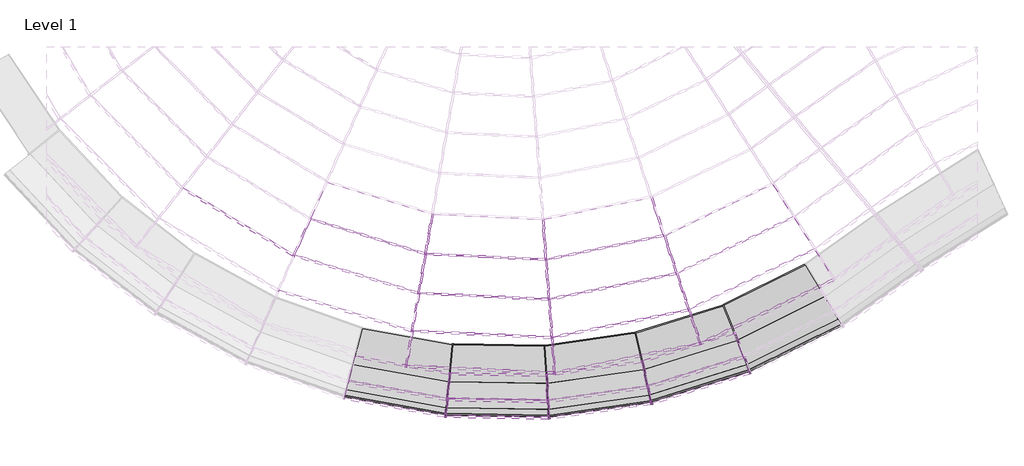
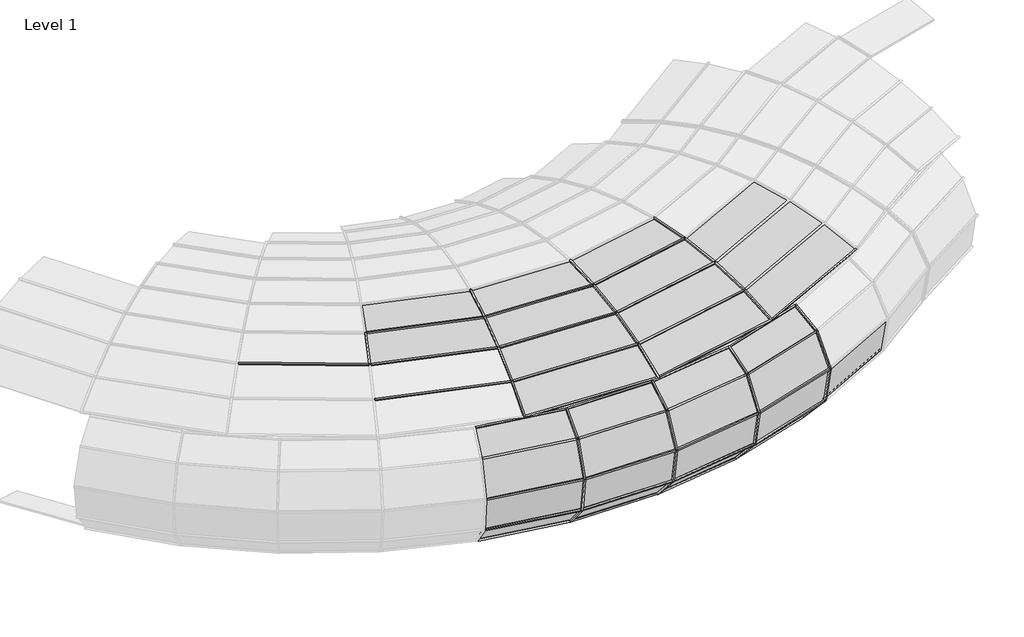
# One storey, part 3 of 23: 70 members, 36 plates.
"""IFC4 building model written with IfcOpenShell, lengths in millimetres."""

from ifc_helpers import new_model, si_unit, origin, place, context, project, spatial, transform, mapped, element, save
from components import member_6c4aaba8, member_0ea93e7c, member_12c77cbe, member_af15374c, member_9c203333, member_86c07ba8, member_0e8a41c0, member_f532ae18, member_ff5bcfe9, member_5080b2ef, member_d6b8231b, member_8c9da58c, member_391bee44, member_01ebdf2a, member_0cd36c09, member_e4cc2466, system_panel_glazed_dfe8d515, system_panel_glazed_f0cf6c0b, system_panel_glazed_2b57bb89, system_panel_glazed_39caee5c, system_panel_glazed_2fe36e08, system_panel_glazed_8ac96967, system_panel_glazed_5e26bc8e, system_panel_glazed_f7be4813, system_panel_glazed_5b1ce257

model = new_model("IFC4")

# Units and contexts
model_context = context("Model", 3, world=origin())
ifc_project = project(units=[si_unit("LENGTHUNIT", "METRE", prefix="MILLI")], contexts=[model_context])

# Site, building, storey
site = spatial("IfcSite", under=ifc_project)
building = spatial("IfcBuilding", under=site)
storey = spatial("IfcBuildingStorey", under=building, Name="Level 1", Elevation=0.0)

# Members
placement = place(None, origin())
member_shape = member_6c4aaba8(model_context)
element("IfcMember", 1, ObjectType="Rectangular Mullion : 1\" Square", at=placement, inside=storey, context=model_context, shape_type="MappedRepresentation", body=[
    mapped(member_shape, transform((-11347.2501894, -9575.5655717, 2378.3537392), x_axis=(0.2631320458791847, 0.8664968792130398, 0.4241988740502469), y_axis=(-0.12325986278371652, -0.40589615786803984, 0.9055690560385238), z_axis=(0.9568534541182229, -0.2905709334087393, 0.0))),
])
element("IfcMember", 2, ObjectType="Rectangular Mullion : 1\" Square", at=placement, inside=storey, context=model_context, shape_type="MappedRepresentation", body=[
    mapped(member_shape, transform((-9287.1597581, -9676.1511037, 2378.3537392), x_axis=(0.04279783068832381, 0.9045571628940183, 0.4241988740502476), y_axis=(-0.020047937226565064, -0.4237248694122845, 0.9055690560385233), z_axis=(0.9988825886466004, -0.047260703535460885, 0.0))),
])
element("IfcMember", 3, ObjectType="Rectangular Mullion : 1\" Square", at=placement, inside=storey, context=model_context, shape_type="MappedRepresentation", body=[
    mapped(member_shape, transform((-7265.2214514, -9268.8974749, 2378.3537392), x_axis=(-0.18014561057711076, 0.8874699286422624, 0.4241988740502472), y_axis=(0.08438623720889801, -0.41572063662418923, 0.9055690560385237), z_axis=(0.9800135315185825, 0.19893083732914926, 0.0))),
])
member_2_shape = member_0ea93e7c(model_context)
element("IfcMember", 4, ObjectType="Rectangular Mullion : 1\" Square", at=placement, inside=storey, context=model_context, shape_type="MappedRepresentation", body=[
    mapped(member_2_shape, transform((-9375.3878964, -8525.0060754, 2763.3769688), x_axis=(0.04631124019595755, 0.9788151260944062, 0.19943976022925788), y_axis=(-0.009425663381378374, -0.19921690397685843, 0.9799100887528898), z_axis=(0.9988825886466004, -0.04726070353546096, 0.0))),
])
element("IfcMember", 5, ObjectType="Rectangular Mullion : 1\" Square", at=placement, inside=storey, context=model_context, shape_type="MappedRepresentation", body=[
    mapped(member_2_shape, transform((-7632.8190581, -8174.4610537, 2763.3769688), x_axis=(-0.1949343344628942, 0.9603251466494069, 0.19943976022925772), y_axis=(0.03967471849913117, -0.19545366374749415, 0.9799100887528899), z_axis=(0.9800135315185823, 0.19893083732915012, 0.0))),
])
element("IfcMember", 6, ObjectType="Rectangular Mullion : 1\" Square", at=placement, inside=storey, context=model_context, shape_type="MappedRepresentation", body=[
    mapped(member_2_shape, transform((-11150.7299146, -8437.893008, 2763.3769688), x_axis=(0.28473338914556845, 0.9376303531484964, 0.19943976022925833), y_axis=(-0.05795139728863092, -0.190834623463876, 0.9799100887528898), z_axis=(0.9568534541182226, -0.2905709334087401, 0.0))),
])
member_3_shape = member_12c77cbe(model_context)
element("IfcMember", 7, ObjectType="Rectangular Mullion : 1\" Square", at=placement, inside=storey, context=model_context, shape_type="MappedRepresentation", body=[
    mapped(member_3_shape, transform((-13089.9278612, -8456.3612931, 2605.3528615), x_axis=(0.49006573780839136, 0.8131794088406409, 0.31396627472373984), y_axis=(-0.16205875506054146, -0.2689085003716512, 0.9494341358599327), z_axis=(0.8564884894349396, -0.5161661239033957, 0.0))),
])
element("IfcMember", 8, ObjectType="Rectangular Mullion : 1\" Square", at=placement, inside=storey, context=model_context, shape_type="MappedRepresentation", body=[
    mapped(member_3_shape, transform((-11250.9477798, -9018.0627427, 2605.3528615), x_axis=(0.275877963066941, 0.9084693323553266, 0.31396627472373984), y_axis=(-0.09122947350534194, -0.30041971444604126, 0.9494341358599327), z_axis=(0.9568534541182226, -0.2905709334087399, 0.0))),
])
element("IfcMember", 9, ObjectType="Rectangular Mullion : 1\" Square", at=placement, inside=storey, context=model_context, shape_type="MappedRepresentation", body=[
    mapped(member_3_shape, transform((-9330.3949017, -9112.0462545, 2605.3528615), x_axis=(0.04487092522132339, 0.9483732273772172, 0.3139662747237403), y_axis=(-0.014838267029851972, -0.31361544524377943, 0.9494341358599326), z_axis=(0.9988825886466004, -0.047260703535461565, 0.0))),
])
element("IfcMember", 10, ObjectType="Rectangular Mullion : 1\" Square", at=placement, inside=storey, context=model_context, shape_type="MappedRepresentation", body=[
    mapped(member_3_shape, transform((-7445.3582608, -8732.5820002, 2605.3528615), x_axis=(-0.1888717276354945, 0.930458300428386, 0.31396627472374), y_axis=(0.0624575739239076, -0.30769119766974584, 0.9494341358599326), z_axis=(0.9800135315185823, 0.19893083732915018, 0.0))),
])
member_4_shape = member_af15374c(model_context)
element("IfcMember", 11, ObjectType="Rectangular Mullion : 1\" Square", at=placement, inside=storey, context=model_context, shape_type="MappedRepresentation", body=[
    mapped(member_4_shape, transform((-11413.4292669, -10106.7607454, 2085.6089632), x_axis=(-0.041380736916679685, -0.8746060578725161, -0.4830650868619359), y_axis=(-0.022829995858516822, -0.48252530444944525, 0.8755844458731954), z_axis=(-0.9988825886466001, 0.047260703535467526, 0.0))),
])
element("IfcMember", 12, ObjectType="Rectangular Mullion : 1\" Square", at=placement, inside=storey, context=model_context, shape_type="MappedRepresentation", body=[
    mapped(member_4_shape, transform((-9221.1655616, -10207.3692781, 2085.6089632), x_axis=(0.1741807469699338, -0.858084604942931, -0.4830650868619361), y_axis=(0.09609654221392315, -0.47341032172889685, 0.8755844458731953), z_axis=(-0.9800135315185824, -0.19893083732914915, 0.0))),
])
element("IfcMember", 13, ObjectType="Rectangular Mullion : 1\" Square", at=placement, inside=storey, context=model_context, shape_type="MappedRepresentation", body=[
    mapped(member_4_shape, transform((-7071.0774039, -9767.752235, 2085.6089632), x_axis=(0.37912307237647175, -0.7892488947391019, -0.48306508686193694), y_axis=(0.20916442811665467, -0.43543325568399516, 0.8755844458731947), z_axis=(-0.901396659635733, -0.4329942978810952, 0.0))),
])
member_5_shape = member_9c203333(model_context)
element("IfcMember", 14, ObjectType="Rectangular Mullion : 1\" Square", at=placement, inside=storey, context=model_context, shape_type="MappedRepresentation", body=[
    mapped(member_5_shape, transform((-10725.5107745, -9764.3869193, 0.0), x_axis=(0.01691116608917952, 0.9595212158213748, -0.28112817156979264), y_axis=(-0.004953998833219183, -0.2810845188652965, -0.959670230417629), z_axis=(-0.999844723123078, 0.017621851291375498, 0.0))),
])
element("IfcMember", 15, ObjectType="Rectangular Mullion : 1\" Square", at=placement, inside=storey, context=model_context, shape_type="MappedRepresentation", body=[
    mapped(member_5_shape, transform((-9372.2624856, -9786.2111545, 0.0), x_axis=(-0.1363674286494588, 0.949932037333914, -0.28112817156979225), y_axis=(0.03994781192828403, -0.278275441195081, -0.9596702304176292), z_axis=(-0.9898525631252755, -0.14209821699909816, 0.0))),
])
element("IfcMember", 16, ObjectType="Rectangular Mullion : 1\" Square", at=placement, inside=storey, context=model_context, shape_type="MappedRepresentation", body=[
    mapped(member_5_shape, transform((-8032.8613891, -9591.8868597, 0.0), x_axis=(-0.2861536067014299, 0.9160147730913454, -0.2811281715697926), y_axis=(0.08382654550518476, -0.26833963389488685, -0.9596702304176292), z_axis=(-0.9545099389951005, -0.2981791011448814, 0.0))),
])
element("IfcMember", 17, ObjectType="Rectangular Mullion : 1\" Square", at=placement, inside=storey, context=model_context, shape_type="MappedRepresentation", body=[
    mapped(member_5_shape, transform((-6741.6100073, -9186.3907467, 0.0), x_axis=(-0.4286112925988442, 0.8586380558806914, -0.2811281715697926), y_axis=(0.12555845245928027, -0.2515315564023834, -0.9596702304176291), z_axis=(-0.8947219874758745, -0.4466235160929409, 0.0))),
])
member_6_shape = member_86c07ba8(model_context)
element("IfcMember", 18, ObjectType="Rectangular Mullion : 1\" Square", at=placement, inside=storey, context=model_context, shape_type="MappedRepresentation", body=[
    mapped(member_6_shape, transform((-9360.9950044, -10371.8132882, 170.8694653), x_axis=(-0.014873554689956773, -0.8439093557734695, 0.5362795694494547), y_axis=(-0.009450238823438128, -0.5361962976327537, -0.8440404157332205), z_axis=(0.9998447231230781, -0.017621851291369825, 0.0))),
])
element("IfcMember", 19, ObjectType="Rectangular Mullion : 1\" Square", at=placement, inside=storey, context=model_context, shape_type="MappedRepresentation", body=[
    mapped(member_6_shape, transform((-7928.3234137, -10168.1928781, 170.8694653), x_axis=(0.1199366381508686, -0.8354755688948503, 0.5362795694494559), y_axis=(0.07620437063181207, -0.530837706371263, -0.8440404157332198), z_axis=(0.9898525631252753, 0.1420982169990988, 0.0))),
])
element("IfcMember", 20, ObjectType="Rectangular Mullion : 1\" Square", at=placement, inside=storey, context=model_context, shape_type="MappedRepresentation", body=[
    mapped(member_6_shape, transform((-6546.478791, -9738.6412547, 170.8694653), x_axis=(0.25167521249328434, -0.8056449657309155, 0.5362795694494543), y_axis=(0.1599073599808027, -0.5118841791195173, -0.8440404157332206), z_axis=(0.9545099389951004, 0.29817910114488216, 0.0))),
])
element("IfcMember", 21, ObjectType="Rectangular Mullion : 1\" Square", at=placement, inside=storey, context=model_context, shape_type="MappedRepresentation", body=[
    mapped(member_6_shape, transform((-10807.8023517, -10344.2876965, 170.8694653), x_axis=(-0.14930283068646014, -0.8307303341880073, 0.5362795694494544), y_axis=(-0.09486282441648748, -0.5278227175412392, -0.8440404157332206), z_axis=(0.9842305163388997, -0.17689061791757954, 0.0))),
])
member_7_shape = member_0e8a41c0(model_context)
element("IfcMember", 22, ObjectType="Rectangular Mullion : 1\" Square", at=placement, inside=storey, context=model_context, shape_type="MappedRepresentation", body=[
    mapped(member_7_shape, transform((-10846.9534604, -10743.6386773, 629.7792003), x_axis=(-0.07469705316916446, -0.4156190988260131, 0.9064662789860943), y_axis=(-0.16034538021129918, -0.8921717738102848, -0.42227820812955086), z_axis=(0.9842305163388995, -0.1768906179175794, 0.0))),
])
element("IfcMember", 23, ObjectType="Rectangular Mullion : 1\" Square", at=placement, inside=storey, context=model_context, shape_type="MappedRepresentation", body=[
    mapped(member_7_shape, transform((-9335.9406326, -10772.2958641, 629.7792003), x_axis=(-0.007441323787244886, -0.4222126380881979, 0.9064662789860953), y_axis=(-0.015973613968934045, -0.9063255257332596, -0.4222782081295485), z_axis=(0.9998447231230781, -0.017621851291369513, 0.0))),
])
element("IfcMember", 24, ObjectType="Rectangular Mullion : 1\" Square", at=placement, inside=storey, context=model_context, shape_type="MappedRepresentation", body=[
    mapped(member_7_shape, transform((-7839.7052124, -10559.5505528, 629.7792003), x_axis=(0.060004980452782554, -0.41799316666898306, 0.9064662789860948), y_axis=(0.12880724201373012, -0.8972679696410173, -0.4222782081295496), z_axis=(0.9898525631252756, 0.142098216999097, 0.0))),
])
element("IfcMember", 25, ObjectType="Rectangular Mullion : 1\" Square", at=placement, inside=storey, context=model_context, shape_type="MappedRepresentation", body=[
    mapped(member_7_shape, transform((-6396.5663029, -10110.8512237, 629.7792003), x_axis=(0.12591453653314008, -0.40306874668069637, 0.9064662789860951), y_axis=(0.270289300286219, -0.8652310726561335, -0.4222782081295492), z_axis=(0.9545099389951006, 0.2981791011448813, 0.0))),
])
member_8_shape = member_f532ae18(model_context)
element("IfcMember", 26, ObjectType="Rectangular Mullion : 1\" Square", at=placement, inside=storey, context=model_context, shape_type="MappedRepresentation", body=[
    mapped(member_8_shape, transform((-10855.8579485, -10834.4666563, 1232.5089476), x_axis=(0.02369634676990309, 0.13184796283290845, 0.9909866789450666), y_axis=(-0.17529624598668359, -0.9753593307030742, 0.13396044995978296), z_axis=(0.9842305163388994, -0.17689061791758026, 0.0))),
])
element("IfcMember", 27, ObjectType="Rectangular Mullion : 1\" Square", at=placement, inside=storey, context=model_context, shape_type="MappedRepresentation", body=[
    mapped(member_8_shape, transform((-9330.2422919, -10863.3812119, 1232.5089476), x_axis=(0.002360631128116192, 0.13393964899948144, 0.9909866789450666), y_axis=(-0.017463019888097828, -0.9908328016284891, 0.13396044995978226), z_axis=(0.9998447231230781, -0.017621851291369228, 0.0))),
])
element("IfcMember", 28, ObjectType="Rectangular Mullion : 1\" Square", at=placement, inside=storey, context=model_context, shape_type="MappedRepresentation", body=[
    mapped(member_8_shape, transform((-7819.5499793, -10648.5605424, 1232.5089476), x_axis=(-0.019035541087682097, 0.1326010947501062, 0.9909866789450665), y_axis=(0.1408174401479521, -0.9809307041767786, 0.13396044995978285), z_axis=(0.9898525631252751, 0.14209821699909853, 0.0))),
])
element("IfcMember", 29, ObjectType="Rectangular Mullion : 1\" Square", at=placement, inside=storey, context=model_context, shape_type="MappedRepresentation", body=[
    mapped(member_8_shape, transform((-6362.4703598, -10195.5062787, 1232.5089476), x_axis=(-0.0399442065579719, 0.12786658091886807, 0.9909866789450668), y_axis=(0.29549151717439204, -0.9459066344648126, 0.13396044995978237), z_axis=(0.9545099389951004, 0.29817910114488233, 0.0))),
])
member_9_shape = member_ff5bcfe9(model_context)
element("IfcMember", 30, ObjectType="Rectangular Mullion : 1\" Square", at=placement, inside=storey, context=model_context, shape_type="MappedRepresentation", body=[
    mapped(member_9_shape, transform((-10831.717428, -10588.2273827, 1789.6405438), x_axis=(0.1145188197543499, 0.6371899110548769, 0.7621512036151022), y_axis=(-0.13481739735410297, -0.7501324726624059, 0.6473990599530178), z_axis=(0.9842305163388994, -0.17689061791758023, 0.0))),
])
element("IfcMember", 31, ObjectType="Rectangular Mullion : 1\" Square", at=placement, inside=storey, context=model_context, shape_type="MappedRepresentation", body=[
    mapped(member_9_shape, transform((-9345.6907836, -10616.4441984, 1789.6405438), x_axis=(0.011408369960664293, 0.6472985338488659, 0.7621512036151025), y_axis=(-0.01343051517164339, -0.7620328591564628, 0.6473990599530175), z_axis=(0.999844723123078, -0.017621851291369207, 0.0))),
])
element("IfcMember", 32, ObjectType="Rectangular Mullion : 1\" Square", at=placement, inside=storey, context=model_context, shape_type="MappedRepresentation", body=[
    mapped(member_9_shape, transform((-7874.1918421, -10407.2499305, 1789.6405438), x_axis=(-0.09199425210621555, 0.6408296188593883, 0.7621512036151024), y_axis=(0.10830032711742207, -0.7544173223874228, 0.6473990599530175), z_axis=(0.9898525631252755, 0.1420982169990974, 0.0))),
])
element("IfcMember", 33, ObjectType="Rectangular Mullion : 1\" Square", at=placement, inside=storey, context=model_context, shape_type="MappedRepresentation", body=[
    mapped(member_9_shape, transform((-6454.9061968, -9966.0021162, 1789.6405438), x_axis=(-0.19304086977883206, 0.6179488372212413, 0.7621512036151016), y_axis=(0.22725756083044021, -0.7274808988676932, 0.6473990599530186), z_axis=(0.9545099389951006, 0.298179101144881, 0.0))),
])
member_10_shape = member_5080b2ef(model_context)
element("IfcMember", 34, ObjectType="Rectangular Mullion : 1\" Square", at=placement, inside=storey, context=model_context, shape_type="MappedRepresentation", body=[
    mapped(member_10_shape, transform((-10792.7970856, -10191.230275, 2085.6089632), x_axis=(0.1418965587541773, 0.7895213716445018, 0.5970941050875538), y_axis=(-0.10562034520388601, -0.5876782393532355, 0.8021711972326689), z_axis=(0.9842305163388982, -0.17689061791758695, 0.0))),
])
element("IfcMember", 35, ObjectType="Rectangular Mullion : 1\" Square", at=placement, inside=storey, context=model_context, shape_type="MappedRepresentation", body=[
    mapped(member_10_shape, transform((-9370.5974787, -10218.3221654, 2085.6089632), x_axis=(0.01413574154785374, 0.802046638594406, 0.5970941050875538), y_axis=(-0.010521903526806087, -0.5970013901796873, 0.8021711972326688), z_axis=(0.9998447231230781, -0.01762185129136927, 0.0))),
])
element("IfcMember", 36, ObjectType="Rectangular Mullion : 1\" Square", at=placement, inside=storey, context=model_context, shape_type="MappedRepresentation", body=[
    mapped(member_10_shape, transform((-7962.2877058, -10018.1990143, 2085.6089632), x_axis=(-0.11398709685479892, 0.7940312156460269, 0.5970941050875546), y_axis=(0.08484600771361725, -0.5910351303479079, 0.8021711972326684), z_axis=(0.9898525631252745, 0.1420982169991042, 0.0))),
])
element("IfcMember", 37, ObjectType="Rectangular Mullion : 1\" Square", at=placement, inside=storey, context=model_context, shape_type="MappedRepresentation", body=[
    mapped(member_10_shape, transform((-6603.9350638, -9595.9860444, 2085.6089632), x_axis=(-0.23919068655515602, 0.7656803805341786, 0.5970941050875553), y_axis=(0.1780409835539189, -0.5699322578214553, 0.8021711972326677), z_axis=(0.9545099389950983, 0.2981791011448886, 0.0))),
])
member_11_shape = member_d6b8231b(model_context)
element("IfcMember", 38, ObjectType="Rectangular Mullion : 1\" Square", at=placement, inside=storey, context=model_context, shape_type="MappedRepresentation", body=[
    mapped(member_11_shape, transform((-8044.9836654, -9595.6737343, 0.0), x_axis=(0.9753085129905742, 0.2208467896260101, 0.0), y_axis=(0.06190284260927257, -0.2733767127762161, -0.9599131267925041), z_axis=(-0.2119937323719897, 0.9362114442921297, -0.2802976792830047))),
])
element("IfcMember", 39, ObjectType="Rectangular Mullion : 1\" Square", at=placement, inside=storey, context=model_context, shape_type="MappedRepresentation", body=[
    mapped(member_11_shape, transform((-6752.9729766, -9192.0628654, 0.0), x_axis=(0.927590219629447, 0.3735992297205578, 0.0), y_axis=(0.10471899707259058, -0.2600013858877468, -0.959913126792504), z_axis=(-0.35862280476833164, 0.8904060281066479, -0.2802976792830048))),
])
element("IfcMember", 40, ObjectType="Rectangular Mullion : 1\" Square", at=placement, inside=storey, context=model_context, shape_type="MappedRepresentation", body=[
    mapped(member_11_shape, transform((-9384.8336131, -9788.0158019, 0.0), x_axis=(0.998048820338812, 0.0624383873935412, 0.0), y_axis=(0.017501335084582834, -0.27975076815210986, -0.9599131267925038), z_axis=(-0.059935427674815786, 0.958040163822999, -0.2802976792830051))),
])
element("IfcMember", 41, ObjectType="Rectangular Mullion : 1\" Square", at=placement, inside=storey, context=model_context, shape_type="MappedRepresentation", body=[
    mapped(member_11_shape, transform((-10738.2088025, -9764.1631218, 0.0), x_axis=(0.9952287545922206, -0.09756908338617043, 0.0), y_axis=(-0.0273483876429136, -0.27896031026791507, -0.959913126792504), z_axis=(0.09365784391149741, 0.9553331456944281, -0.2802976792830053))),
])
member_12_shape = member_8c9da58c(model_context)
element("IfcMember", 42, ObjectType="Rectangular Mullion : 1\" Square", at=placement, inside=storey, context=model_context, shape_type="MappedRepresentation", body=[
    mapped(member_12_shape, transform((-10795.3026241, -10346.5342074, 170.8694653), x_axis=(0.9952287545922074, -0.09756908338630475, 0.0), y_axis=(-0.07345046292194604, -0.7492128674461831, -0.6582439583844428), z_axis=(0.0642242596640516, 0.6551033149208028, -0.7528046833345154))),
])
element("IfcMember", 43, ObjectType="Rectangular Mullion : 1\" Square", at=placement, inside=storey, context=model_context, shape_type="MappedRepresentation", body=[
    mapped(member_12_shape, transform((-9348.2969764, -10372.0370857, 170.8694653), x_axis=(0.9980488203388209, 0.062438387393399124, 0.0), y_axis=(0.04700391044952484, -0.7513358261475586, -0.6582439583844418), z_axis=(-0.04109969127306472, 0.6569596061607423, -0.7528046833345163))),
])
element("IfcMember", 44, ObjectType="Rectangular Mullion : 1\" Square", at=placement, inside=storey, context=model_context, shape_type="MappedRepresentation", body=[
    mapped(member_12_shape, transform((-9323.2426046, -10772.5196617, 629.7792003), x_axis=(0.9980488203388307, 0.06243838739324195, 0.0), y_axis=(0.061734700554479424, -0.9868007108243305, -0.14971033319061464), z_axis=(-0.009347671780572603, 0.14941822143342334, -0.988729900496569))),
])
element("IfcMember", 45, ObjectType="Rectangular Mullion : 1\" Square", at=placement, inside=storey, context=model_context, shape_type="MappedRepresentation", body=[
    mapped(member_12_shape, transform((-7915.7522861, -10166.3882307, 170.8694653), x_axis=(0.9753085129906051, 0.22084678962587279, 0.0), y_axis=(0.1662544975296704, -0.734216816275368, -0.6582439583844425), z_axis=(-0.14537106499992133, 0.6419909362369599, -0.7528046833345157))),
])
element("IfcMember", 46, ObjectType="Rectangular Mullion : 1\" Square", at=placement, inside=storey, context=model_context, shape_type="MappedRepresentation", body=[
    mapped(member_12_shape, transform((-7827.1340849, -10557.7459054, 629.7792003), x_axis=(0.9753085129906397, 0.22084678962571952, 0.0), y_axis=(0.2183578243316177, -0.9643166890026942, -0.1497103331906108), z_axis=(-0.03306304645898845, 0.14601376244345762, -0.9887299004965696))),
])
element("IfcMember", 47, ObjectType="Rectangular Mullion : 1\" Square", at=placement, inside=storey, context=model_context, shape_type="MappedRepresentation", body=[
    mapped(member_12_shape, transform((-6534.3565148, -9734.8543801, 170.8694653), x_axis=(0.9275902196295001, 0.3735992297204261, 0.0), y_axis=(0.2812472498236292, -0.6982942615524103, -0.6582439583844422), z_axis=(-0.24591943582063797, 0.6105806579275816, -0.752804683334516))),
])
element("IfcMember", 48, ObjectType="Rectangular Mullion : 1\" Square", at=placement, inside=storey, context=model_context, shape_type="MappedRepresentation", body=[
    mapped(member_12_shape, transform((-6384.4440267, -10107.0643492, 629.7792003), x_axis=(0.9275902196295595, 0.3735992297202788, 0.0), y_axis=(0.36938872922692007, -0.9171361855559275, -0.14971033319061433), z_axis=(-0.05593166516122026, 0.1388698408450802, -0.9887299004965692))),
])
member_13_shape = member_391bee44(model_context)
element("IfcMember", 49, ObjectType="Rectangular Mullion : 1\" Square", at=placement, inside=storey, context=model_context, shape_type="MappedRepresentation", body=[
    mapped(member_13_shape, transform((-9317.5442639, -10863.6050094, 1232.5089476), x_axis=(0.9980488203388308, 0.062438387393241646, 0.0), y_axis=(0.05706430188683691, -0.9121465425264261, 0.4058723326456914), z_axis=(0.025342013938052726, -0.40508040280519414, -0.9139297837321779))),
])
element("IfcMember", 50, ObjectType="Rectangular Mullion : 1\" Square", at=placement, inside=storey, context=model_context, shape_type="MappedRepresentation", body=[
    mapped(member_13_shape, transform((-7806.9788518, -10646.755895, 1232.5089476), x_axis=(0.9753085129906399, 0.22084678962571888, 0.0), y_axis=(0.20183845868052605, -0.8913634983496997, 0.4058723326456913), z_axis=(0.08963560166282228, -0.39585074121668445, -0.9139297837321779))),
])
element("IfcMember", 51, ObjectType="Rectangular Mullion : 1\" Square", at=placement, inside=storey, context=model_context, shape_type="MappedRepresentation", body=[
    mapped(member_13_shape, transform((-6350.3480836, -10191.7194041, 1232.5089476), x_axis=(0.9275902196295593, 0.37359922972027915, 0.0), y_axis=(0.34144346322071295, -0.8477523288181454, 0.40587233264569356), z_axis=(0.15163359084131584, -0.37648320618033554, -0.9139297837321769))),
])
member_14_shape = member_01ebdf2a(model_context)
element("IfcMember", 52, ObjectType="Rectangular Mullion : 1\" Square", at=placement, inside=storey, context=model_context, shape_type="MappedRepresentation", body=[
    mapped(member_14_shape, transform((-9332.9927556, -10616.6679959, 1789.6405438), x_axis=(0.9980488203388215, 0.062438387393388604, 0.0), y_axis=(0.037204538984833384, -0.5946973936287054, 0.8030883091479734), z_axis=(0.050143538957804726, -0.8015213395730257, -0.5958600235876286))),
])
element("IfcMember", 53, ObjectType="Rectangular Mullion : 1\" Square", at=placement, inside=storey, context=model_context, shape_type="MappedRepresentation", body=[
    mapped(member_14_shape, transform((-7861.6207145, -10405.4452832, 1789.6405438), x_axis=(0.9753085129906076, 0.22084678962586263, 0.0), y_axis=(0.13159377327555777, -0.5811473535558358, 0.8030883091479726), z_axis=(0.17735947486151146, -0.7832588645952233, -0.5958600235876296))),
])
element("IfcMember", 54, ObjectType="Rectangular Mullion : 1\" Square", at=placement, inside=storey, context=model_context, shape_type="MappedRepresentation", body=[
    mapped(member_14_shape, transform((-6442.7839206, -9962.2152417, 1789.6405438), x_axis=(0.9275902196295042, 0.3735992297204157, 0.0), y_axis=(0.22261284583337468, -0.5527139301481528, 0.8030883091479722), z_axis=(0.3000331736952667, -0.744936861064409, -0.59586002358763))),
])
element("IfcMember", 55, ObjectType="Rectangular Mullion : 1\" Square", at=placement, inside=storey, context=model_context, shape_type="MappedRepresentation", body=[
    mapped(member_12_shape, transform((-10834.4537328, -10745.8851882, 629.7792003), x_axis=(0.9952287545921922, -0.09756908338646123, 0.0), y_axis=(-0.09646947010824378, -0.9840124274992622, -0.1497103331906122), z_axis=(0.014607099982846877, 0.1489960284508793, -0.9887299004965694))),
])
element("IfcMember", 56, ObjectType="Rectangular Mullion : 1\" Square", at=placement, inside=storey, context=model_context, shape_type="MappedRepresentation", body=[
    mapped(member_13_shape, transform((-10843.358221, -10836.7131671, 1232.5089476), x_axis=(0.9952287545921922, -0.09756908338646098, 0.0), y_axis=(-0.08917129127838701, -0.9095692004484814, 0.40587233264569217), z_axis=(-0.039600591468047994, -0.4039358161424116, -0.9139297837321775))),
])
element("IfcMember", 57, ObjectType="Rectangular Mullion : 1\" Square", at=placement, inside=storey, context=model_context, shape_type="MappedRepresentation", body=[
    mapped(member_14_shape, transform((-10819.2177004, -10590.4738936, 1789.6405438), x_axis=(0.9952287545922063, -0.09756908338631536, 0.0), y_axis=(-0.05813751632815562, -0.593017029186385, 0.8030883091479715), z_axis=(-0.0783565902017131, -0.7992565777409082, -0.5958600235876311))),
])
member_15_shape = member_0cd36c09(model_context)
element("IfcMember", 58, ObjectType="Rectangular Mullion : 1\" Square", at=placement, inside=storey, context=model_context, shape_type="MappedRepresentation", body=[
    mapped(member_15_shape, transform((-9274.4739492, -9676.7513146, 2378.3537392), x_axis=(0.9970757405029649, 0.07641968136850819, 0.0), y_axis=(0.02845669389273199, -0.37128497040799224, 0.9280828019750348), z_axis=(0.0709237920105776, -0.9253688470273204, -0.37237388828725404))),
])
element("IfcMember", 59, ObjectType="Rectangular Mullion : 1\" Square", at=placement, inside=storey, context=model_context, shape_type="MappedRepresentation", body=[
    mapped(member_15_shape, transform((-9317.7090929, -9112.6464655, 2605.3528615), x_axis=(0.9970757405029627, 0.07641968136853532, 0.0), y_axis=(0.01980996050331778, -0.25846785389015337, 0.965816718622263), z_axis=(0.07380740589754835, -0.962992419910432, -0.25922589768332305))),
])
element("IfcMember", 60, ObjectType="Rectangular Mullion : 1\" Square", at=placement, inside=storey, context=model_context, shape_type="MappedRepresentation", body=[
    mapped(member_15_shape, transform((-9362.7020875, -8525.6062863, 2763.3769688), x_axis=(0.9970757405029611, 0.07641968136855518, 0.0), y_axis=(0.010881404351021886, -0.14197369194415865, 0.9898106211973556), z_axis=(0.07564101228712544, -0.9869161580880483, -0.14239007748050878))),
])
element("IfcMember", 61, ObjectType="Rectangular Mullion : 1\" Square", at=placement, inside=storey, context=model_context, shape_type="MappedRepresentation", body=[
    mapped(member_15_shape, transform((-7252.7752796, -9266.3710533, 2378.3537392), x_axis=(0.947957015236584, 0.3183983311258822, 0.0), y_axis=(0.11856322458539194, -0.35299443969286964, 0.9280828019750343), z_axis=(0.295500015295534, -0.8797826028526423, -0.37237388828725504))),
])
element("IfcMember", 62, ObjectType="Rectangular Mullion : 1\" Square", at=placement, inside=storey, context=model_context, shape_type="MappedRepresentation", body=[
    mapped(member_15_shape, transform((-7432.9120889, -8730.0555786, 2605.3528615), x_axis=(0.9479570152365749, 0.31839833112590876, 0.0), y_axis=(0.08253709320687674, -0.24573500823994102, 0.9658167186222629), z_axis=(0.30751443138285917, -0.9155527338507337, -0.2592258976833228))),
])
element("IfcMember", 63, ObjectType="Rectangular Mullion : 1\" Square", at=placement, inside=storey, context=model_context, shape_type="MappedRepresentation", body=[
    mapped(member_15_shape, transform((-7620.3728863, -8171.934632, 2763.3769688), x_axis=(0.9479570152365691, 0.3183983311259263, 0.0), y_axis=(0.045336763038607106, -0.13497967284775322, 0.9898106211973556), z_axis=(0.31515404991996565, -0.9382979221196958, -0.14239007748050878))),
])
element("IfcMember", 64, ObjectType="Rectangular Mullion : 1\" Square", at=placement, inside=storey, context=model_context, shape_type="MappedRepresentation", body=[
    mapped(member_15_shape, transform((-13079.0504574, -8462.9166029, 2605.3528615), x_axis=(0.9136605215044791, -0.4064781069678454, 0.0), y_axis=(-0.10536965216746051, -0.2368444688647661, 0.9658167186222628), z_axis=(-0.39258335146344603, -0.8824286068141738, -0.25922589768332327))),
])
element("IfcMember", 65, ObjectType="Rectangular Mullion : 1\" Square", at=placement, inside=storey, context=model_context, shape_type="MappedRepresentation", body=[
    mapped(member_15_shape, transform((-11335.0981505, -9579.2558226, 2378.3537392), x_axis=(0.9854064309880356, -0.17021799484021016, 0.0), y_axis=(-0.06338473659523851, -0.36693962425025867, 0.9280828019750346), z_axis=(-0.15797639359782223, -0.9145387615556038, -0.37237388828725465))),
])
element("IfcMember", 66, ObjectType="Rectangular Mullion : 1\" Square", at=placement, inside=storey, context=model_context, shape_type="MappedRepresentation", body=[
    mapped(member_15_shape, transform((-11238.795741, -9021.7529935, 2605.3528615), x_axis=(0.9854064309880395, -0.1702179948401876, 0.0), y_axis=(-0.044124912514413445, -0.25544286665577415, 0.9658167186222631), z_axis=(-0.16439938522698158, -0.9517220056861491, -0.2592258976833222))),
])
element("IfcMember", 67, ObjectType="Rectangular Mullion : 1\" Square", at=placement, inside=storey, context=model_context, shape_type="MappedRepresentation", body=[
    mapped(member_15_shape, transform((-11138.5778757, -8441.5832589, 2763.3769688), x_axis=(0.9854064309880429, -0.17021799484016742, 0.0), y_axis=(-0.024237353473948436, -0.14031209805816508, 0.9898106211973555), z_axis=(-0.16848357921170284, -0.9753657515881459, -0.14239007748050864))),
])
member_16_shape = member_e4cc2466(model_context)
element("IfcMember", 68, ObjectType="Rectangular Mullion : 1\" Square", at=placement, inside=storey, context=model_context, shape_type="MappedRepresentation", body=[
    mapped(member_16_shape, transform((-9233.6117335, -10209.8956998, 2085.6089632), x_axis=(0.997075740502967, 0.07641968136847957, 0.0), y_axis=(0.036698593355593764, -0.47882006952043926, 0.8771456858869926), z_axis=(0.06703119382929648, -0.8745806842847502, -0.48022437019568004))),
])
element("IfcMember", 69, ObjectType="Rectangular Mullion : 1\" Square", at=placement, inside=storey, context=model_context, shape_type="MappedRepresentation", body=[
    mapped(member_16_shape, transform((-7082.5251415, -9773.2512626, 2085.6089632), x_axis=(0.9479570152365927, 0.3183983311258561, 0.0), y_axis=(0.15290263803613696, -0.4552320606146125, 0.8771456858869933), z_axis=(0.2792817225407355, -0.8314964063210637, -0.48022437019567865))),
])
element("IfcMember", 70, ObjectType="Rectangular Mullion : 1\" Square", at=placement, inside=storey, context=model_context, shape_type="MappedRepresentation", body=[
    mapped(member_16_shape, transform((-11426.1150758, -10106.1605344, 2085.6089632), x_axis=(0.98540643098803, -0.17021799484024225, 0.0), y_axis=(-0.08174282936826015, -0.4732161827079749, 0.8771456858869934), z_axis=(-0.14930597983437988, -0.8643449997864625, -0.48022437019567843))),
])

# Plates
system_panel_glazed_shape = system_panel_glazed_dfe8d515(model_context)
element("IfcPlate", 71, ObjectType="System Panel : Glazed", at=placement, inside=storey, context=model_context, shape_type="MappedRepresentation", body=[
    mapped(system_panel_glazed_shape, transform((-11408.6406354, -9668.4360784, 7.1406556), x_axis=(0.9842305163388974, -0.1768906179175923, 0.0), y_axis=(0.049728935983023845, 0.2766949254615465, 0.9596702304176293), z_axis=(-0.16975666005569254, -0.9445367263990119, 0.2811281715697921))),
])
element("IfcPlate", 72, ObjectType="System Panel : Glazed", at=placement, inside=storey, context=model_context, shape_type="MappedRepresentation", body=[
    mapped(system_panel_glazed_shape, transform((-10061.9507514, -9800.4613007, 7.1406556), x_axis=(0.999844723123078, -0.017621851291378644, 0.0), y_axis=(0.004953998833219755, 0.2810845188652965, 0.9596702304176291), z_axis=(-0.01691116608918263, -0.9595212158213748, 0.28112817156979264))),
])
element("IfcPlate", 73, ObjectType="System Panel : Glazed", at=placement, inside=storey, context=model_context, shape_type="MappedRepresentation", body=[
    mapped(system_panel_glazed_shape, transform((-8711.4449066, -9715.9730418, 7.1406556), x_axis=(0.9898525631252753, 0.1420982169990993, 0.0), y_axis=(-0.03994781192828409, 0.278275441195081, 0.9596702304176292), z_axis=(0.13636742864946, -0.9499320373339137, 0.28112817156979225))),
])
element("IfcPlate", 74, ObjectType="System Panel : Glazed", at=placement, inside=storey, context=model_context, shape_type="MappedRepresentation", body=[
    mapped(system_panel_glazed_shape, transform((-7391.7100194, -9417.135075, 7.1406556), x_axis=(0.9545099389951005, 0.29817910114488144, 0.0), y_axis=(-0.08382654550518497, 0.26833963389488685, 0.9596702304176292), z_axis=(0.28615360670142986, -0.9160147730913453, 0.2811281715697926))),
])
element("IfcPlate", 75, ObjectType="System Panel : Glazed", at=placement, inside=storey, context=model_context, shape_type="MappedRepresentation", body=[
    mapped(system_panel_glazed_shape, transform((-6136.5449536, -8911.6007434, 7.1406556), x_axis=(0.8947219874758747, 0.4466235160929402, 0.0), y_axis=(-0.1255584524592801, 0.2515315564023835, 0.9596702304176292), z_axis=(0.42861129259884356, -0.8586380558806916, 0.28112817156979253))),
])
system_panel_glazed_2_shape = system_panel_glazed_f0cf6c0b(model_context)
element("IfcPlate", 76, ObjectType="System Panel : Glazed", at=placement, inside=storey, context=model_context, shape_type="MappedRepresentation", body=[
    mapped(system_panel_glazed_2_shape, transform((-11508.9828304, -10226.7463581, 180.4433737), x_axis=(0.9842305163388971, -0.1768906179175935, 0.0), y_axis=(0.13334917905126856, 0.7419632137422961, 0.6570453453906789), z_axis=(-0.116225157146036, -0.6466840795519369, 0.7538510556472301))),
])
element("IfcPlate", 77, ObjectType="System Panel : Glazed", at=placement, inside=storey, context=model_context, shape_type="MappedRepresentation", body=[
    mapped(system_panel_glazed_2_shape, transform((-10071.9468454, -10367.6288267, 180.4433737), x_axis=(0.9998447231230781, -0.01762185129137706, 0.0), y_axis=(0.013284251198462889, 0.753734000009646, 0.6570453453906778), z_axis=(-0.011578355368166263, -0.6569433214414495, 0.7538510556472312))),
])
element("IfcPlate", 78, ObjectType="System Panel : Glazed", at=placement, inside=storey, context=model_context, shape_type="MappedRepresentation", body=[
    mapped(system_panel_glazed_2_shape, transform((-8630.8388961, -10277.4724591, 180.4433737), x_axis=(0.9898525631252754, 0.1420982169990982, 0.0), y_axis=(-0.10712089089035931, 0.7462013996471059, 0.6570453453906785), z_axis=(0.0933649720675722, -0.6503780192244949, 0.7538510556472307))),
])
element("IfcPlate", 79, ObjectType="System Panel : Glazed", at=placement, inside=storey, context=model_context, shape_type="MappedRepresentation", body=[
    mapped(system_panel_glazed_2_shape, transform((-7222.5662521, -9958.5861906, 180.4433737), x_axis=(0.9545099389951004, 0.2981791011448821, 0.0), y_axis=(-0.22478263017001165, 0.7195583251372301, 0.6570453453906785), z_axis=(0.19591719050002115, -0.6271563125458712, 0.7538510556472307))),
])
element("IfcPlate", 80, ObjectType="System Panel : Glazed", at=placement, inside=storey, context=model_context, shape_type="MappedRepresentation", body=[
    mapped(system_panel_glazed_2_shape, transform((-5883.1952595, -9419.1368081, 180.4433737), x_axis=(0.894721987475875, 0.44662351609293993, 0.0), y_axis=(-0.3366876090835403, 0.6744871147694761, 0.657045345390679), z_axis=(0.2934519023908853, -0.5878729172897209, 0.7538510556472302))),
])
system_panel_glazed_3_shape = system_panel_glazed_2b57bb89(model_context)
element("IfcPlate", 81, ObjectType="System Panel : Glazed", at=placement, inside=storey, context=model_context, shape_type="MappedRepresentation", body=[
    mapped(system_panel_glazed_3_shape, transform((-11578.5945547, -10614.0703675, 642.3369711), x_axis=(0.9842305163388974, -0.17689061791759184, 0.0), y_axis=(0.17490959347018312, 0.9732079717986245, 0.14924100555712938), z_axis=(-0.026399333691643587, -0.14688755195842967, 0.9888008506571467))),
])
element("IfcPlate", 82, ObjectType="System Panel : Glazed", at=placement, inside=storey, context=model_context, shape_type="MappedRepresentation", body=[
    mapped(system_panel_glazed_3_shape, transform((-10078.8815685, -10761.0974914, 642.3369711), x_axis=(0.9998447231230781, -0.017621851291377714, 0.0), y_axis=(0.01742450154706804, 0.9886473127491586, 0.14924100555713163), z_axis=(-0.0026299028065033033, -0.14921783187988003, 0.9888008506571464))),
])
element("IfcPlate", 83, ObjectType="System Panel : Glazed", at=placement, inside=storey, context=model_context, shape_type="MappedRepresentation", body=[
    mapped(system_panel_glazed_3_shape, transform((-8574.9190174, -10667.0089113, 642.3369711), x_axis=(0.9898525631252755, 0.14209821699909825, 0.0), y_axis=(-0.1405068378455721, 0.978767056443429, 0.14924100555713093), z_axis=(0.021206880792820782, -0.14772659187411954, 0.9888008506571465))),
])
element("IfcPlate", 84, ObjectType="System Panel : Glazed", at=placement, inside=storey, context=model_context, shape_type="MappedRepresentation", body=[
    mapped(system_panel_glazed_3_shape, transform((-7105.2238988, -10334.214268, 642.3369711), x_axis=(0.9545099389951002, 0.2981791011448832, 0.0), y_axis=(-0.29483974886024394, 0.9438202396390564, 0.14924100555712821), z_axis=(0.044500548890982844, -0.14245202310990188, 0.988800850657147))),
])
element("IfcPlate", 85, ObjectType="System Panel : Glazed", at=placement, inside=storey, context=model_context, shape_type="MappedRepresentation", body=[
    mapped(system_panel_glazed_3_shape, transform((-5707.4356096, -9771.2365467, 642.3369711), x_axis=(0.8947219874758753, 0.446623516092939, 0.0), y_axis=(-0.4416217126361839, 0.8847018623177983, 0.14924100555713), z_axis=(0.06665454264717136, -0.13352920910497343, 0.9888008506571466))),
])
system_panel_glazed_4_shape = system_panel_glazed_39caee5c(model_context)
element("IfcPlate", 86, ObjectType="System Panel : Glazed", at=placement, inside=storey, context=model_context, shape_type="MappedRepresentation", body=[
    mapped(system_panel_glazed_4_shape, transform((-11593.4418095, -10696.6814269, 1244.1219817), x_axis=(0.9842305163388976, -0.17689061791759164, 0.0), y_axis=(0.16175092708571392, 0.8999923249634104, -0.4047844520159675), z_axis=(0.07160257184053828, 0.39840121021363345, 0.9144121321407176))),
])
element("IfcPlate", 87, ObjectType="System Panel : Glazed", at=placement, inside=storey, context=model_context, shape_type="MappedRepresentation", body=[
    mapped(system_panel_glazed_4_shape, transform((-10080.3606527, -10845.019124, 1244.1219817), x_axis=(0.999844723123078, -0.017621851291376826, 0.0), y_axis=(0.01611363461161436, 0.9142701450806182, -0.4047844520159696), z_axis=(0.007133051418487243, 0.404721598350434, 0.9144121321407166))),
])
element("IfcPlate", 88, ObjectType="System Panel : Glazed", at=placement, inside=storey, context=model_context, shape_type="MappedRepresentation", body=[
    mapped(system_panel_glazed_4_shape, transform((-8562.992051, -10750.0918553, 1244.1219817), x_axis=(0.9898525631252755, 0.14209821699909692, 0.0), y_axis=(-0.1299363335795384, 0.9051331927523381, -0.4047844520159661), z_axis=(-0.05751914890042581, 0.40067692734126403, 0.914412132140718))),
])
element("IfcPlate", 89, ObjectType="System Panel : Glazed", at=placement, inside=storey, context=model_context, shape_type="MappedRepresentation", body=[
    mapped(system_panel_glazed_4_shape, transform((-7080.1963356, -10414.3307406, 1244.1219817), x_axis=(0.9545099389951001, 0.29817910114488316, 0.0), y_axis=(-0.27265858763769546, 0.8728154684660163, -0.4047844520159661), z_axis=(-0.12069826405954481, 0.3863707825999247, 0.9144121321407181))),
])
system_panel_glazed_5_shape = system_panel_glazed_2fe36e08(model_context)
element("IfcPlate", 90, ObjectType="System Panel : Glazed", at=placement, inside=storey, context=model_context, shape_type="MappedRepresentation", body=[
    mapped(system_panel_glazed_5_shape, transform((-11548.9231727, -10448.9769335, 1797.2236389), x_axis=(0.9842305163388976, -0.1768906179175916, 0.0), y_axis=(0.1056203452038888, 0.5876782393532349, -0.8021711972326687), z_axis=(0.141896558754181, 0.7895213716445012, 0.5970941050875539))),
])
element("IfcPlate", 91, ObjectType="System Panel : Glazed", at=placement, inside=storey, context=model_context, shape_type="MappedRepresentation", body=[
    mapped(system_panel_glazed_5_shape, transform((-10075.9257041, -10593.3849524, 1797.2236389), x_axis=(0.999844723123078, -0.017621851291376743, 0.0), y_axis=(0.010521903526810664, 0.5970013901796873, -0.8021711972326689), z_axis=(0.014135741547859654, 0.802046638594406, 0.5970941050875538))),
])
element("IfcPlate", 92, ObjectType="System Panel : Glazed", at=placement, inside=storey, context=model_context, shape_type="MappedRepresentation", body=[
    mapped(system_panel_glazed_5_shape, transform((-8598.7543712, -10500.9724431, 1797.2236389), x_axis=(0.9898525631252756, 0.1420982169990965, 0.0), y_axis=(-0.08484600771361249, 0.5910351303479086, -0.8021711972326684), z_axis=(-0.11398709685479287, 0.7940312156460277, 0.5970941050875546))),
])
element("IfcPlate", 93, ObjectType="System Panel : Glazed", at=placement, inside=storey, context=model_context, shape_type="MappedRepresentation", body=[
    mapped(system_panel_glazed_5_shape, transform((-7155.2400393, -10174.1061216, 1797.2236389), x_axis=(0.9545099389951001, 0.29817910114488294, 0.0), y_axis=(-0.17804098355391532, 0.5699322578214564, -0.8021711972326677), z_axis=(-0.23919068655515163, 0.7656803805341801, 0.5970941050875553))),
])
system_panel_glazed_6_shape = system_panel_glazed_8ac96967(model_context)
element("IfcPlate", 94, ObjectType="System Panel : Glazed", at=placement, inside=storey, context=model_context, shape_type="MappedRepresentation", body=[
    mapped(system_panel_glazed_6_shape, transform((-10328.8123339, -10135.8131232, 2097.8788164), x_axis=(0.9988825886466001, -0.047260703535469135, 0.0), y_axis=(0.02282999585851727, 0.48252530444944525, -0.8755844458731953), z_axis=(0.04138073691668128, 0.874606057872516, 0.48306508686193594))),
])
element("IfcPlate", 95, ObjectType="System Panel : Glazed", at=placement, inside=storey, context=model_context, shape_type="MappedRepresentation", body=[
    mapped(system_panel_glazed_6_shape, transform((-8162.4926285, -9969.7781322, 2097.8788164), x_axis=(0.9800135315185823, 0.19893083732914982, 0.0), y_axis=(-0.0960965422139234, 0.47341032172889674, -0.8755844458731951), z_axis=(-0.17418074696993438, 0.858084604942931, 0.4830650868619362))),
])
element("IfcPlate", 96, ObjectType="System Panel : Glazed", at=placement, inside=storey, context=model_context, shape_type="MappedRepresentation", body=[
    mapped(system_panel_glazed_6_shape, transform((-6102.8918593, -9278.0026222, 2097.8788164), x_axis=(0.9013966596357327, 0.4329942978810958, 0.0), y_axis=(-0.20916442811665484, 0.43543325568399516, -0.8755844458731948), z_axis=(-0.37912307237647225, 0.7892488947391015, 0.48306508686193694))),
])
system_panel_glazed_7_shape = system_panel_glazed_5e26bc8e(model_context)
element("IfcPlate", 97, ObjectType="System Panel : Glazed", at=placement, inside=storey, context=model_context, shape_type="MappedRepresentation", body=[
    mapped(system_panel_glazed_7_shape, transform((-10304.2296012, -9616.242701, 2383.1142391), x_axis=(0.9988825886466, -0.04726070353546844, 0.0), y_axis=(0.017715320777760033, 0.374423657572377, -0.9270885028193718), z_axis=(0.04381485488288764, 0.9260525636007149, 0.3748425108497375))),
])
element("IfcPlate", 98, ObjectType="System Panel : Glazed", at=placement, inside=storey, context=model_context, shape_type="MappedRepresentation", body=[
    mapped(system_panel_glazed_7_shape, transform((-8265.9668309, -9460.0224811, 2383.1142391), x_axis=(0.9800135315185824, 0.1989308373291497, 0.0), y_axis=(-0.07456773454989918, 0.36735073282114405, -0.9270885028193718), z_axis=(-0.18442649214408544, 0.9085592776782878, 0.3748425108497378))),
])
element("IfcPlate", 99, ObjectType="System Panel : Glazed", at=placement, inside=storey, context=model_context, shape_type="MappedRepresentation", body=[
    mapped(system_panel_glazed_7_shape, transform((-6328.1145559, -8809.1396664, 2383.1142391), x_axis=(0.9013966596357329, 0.4329942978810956, 0.0), y_axis=(-0.1623046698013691, 0.33788178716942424, -0.9270885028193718), z_axis=(-0.40142403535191, 0.8356744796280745, 0.3748425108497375))),
])
system_panel_glazed_8_shape = system_panel_glazed_f7be4813(model_context)
element("IfcPlate", 100, ObjectType="System Panel : Glazed", at=placement, inside=storey, context=model_context, shape_type="MappedRepresentation", body=[
    mapped(system_panel_glazed_8_shape, transform((-12155.3608452, -8730.6042545, 2608.668686), x_axis=(0.9568534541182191, -0.29057093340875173, 0.0), y_axis=(0.07586474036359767, 0.24982346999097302, -0.965314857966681), z_axis=(0.28049243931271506, 0.9236648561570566, 0.2610885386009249))),
])
element("IfcPlate", 101, ObjectType="System Panel : Glazed", at=placement, inside=storey, context=model_context, shape_type="MappedRepresentation", body=[
    mapped(system_panel_glazed_8_shape, transform((-10277.6730244, -9054.9539297, 2608.668686), x_axis=(0.9988825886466, -0.04726070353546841, 0.0), y_axis=(0.012339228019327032, 0.2607967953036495, -0.9653148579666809), z_axis=(0.04562145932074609, 0.9642362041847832, 0.26108853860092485))),
])
element("IfcPlate", 102, ObjectType="System Panel : Glazed", at=placement, inside=storey, context=model_context, shape_type="MappedRepresentation", body=[
    mapped(system_panel_glazed_8_shape, transform((-8377.7493832, -8909.3365474, 2608.668686), x_axis=(0.9800135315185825, 0.19893083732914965, 0.0), y_axis=(-0.05193856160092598, 0.25587030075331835, -0.9653148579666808), z_axis=(-0.19203089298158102, 0.9460216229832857, 0.2610885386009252))),
])
element("IfcPlate", 103, ObjectType="System Panel : Glazed", at=placement, inside=storey, context=model_context, shape_type="MappedRepresentation", body=[
    mapped(system_panel_glazed_8_shape, transform((-6571.421267, -8302.629863, 2608.668686), x_axis=(0.9013966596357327, 0.4329942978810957, 0.0), y_axis=(-0.11304984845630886, 0.2353443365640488, -0.9653148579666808), z_axis=(-0.41797582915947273, 0.8701315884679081, 0.261088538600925))),
])
system_panel_glazed_9_shape = system_panel_glazed_5b1ce257(model_context)
element("IfcPlate", 104, ObjectType="System Panel : Glazed", at=placement, inside=storey, context=model_context, shape_type="MappedRepresentation", body=[
    mapped(system_panel_glazed_9_shape, transform((-11985.5026845, -8171.2593612, 2765.1989775), x_axis=(0.9568534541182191, -0.29057093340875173, 0.0), y_axis=(0.04168683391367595, 0.13727522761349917, -0.9896553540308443), z_axis=(0.28756507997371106, 0.9469551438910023, 0.14346525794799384))),
])
element("IfcPlate", 105, ObjectType="System Panel : Glazed", at=placement, inside=storey, context=model_context, shape_type="MappedRepresentation", body=[
    mapped(system_panel_glazed_9_shape, transform((-10250.0459797, -8471.0401939, 2765.1989775), x_axis=(0.9988825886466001, -0.047260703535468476, 0.0), y_axis=(0.006780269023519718, 0.14330494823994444, -0.9896553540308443), z_axis=(0.046771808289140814, 0.988549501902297, 0.143465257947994))),
])
element("IfcPlate", 106, ObjectType="System Panel : Glazed", at=placement, inside=storey, context=model_context, shape_type="MappedRepresentation", body=[
    mapped(system_panel_glazed_9_shape, transform((-8494.0377736, -8336.4530385, 2765.1989775), x_axis=(0.9800135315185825, 0.1989308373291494, 0.0), y_axis=(-0.028539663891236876, 0.14059789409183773, -0.9896553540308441), z_axis=(-0.19687296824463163, 0.9698756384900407, 0.14346525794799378))),
])

save(model, "model.ifc")
